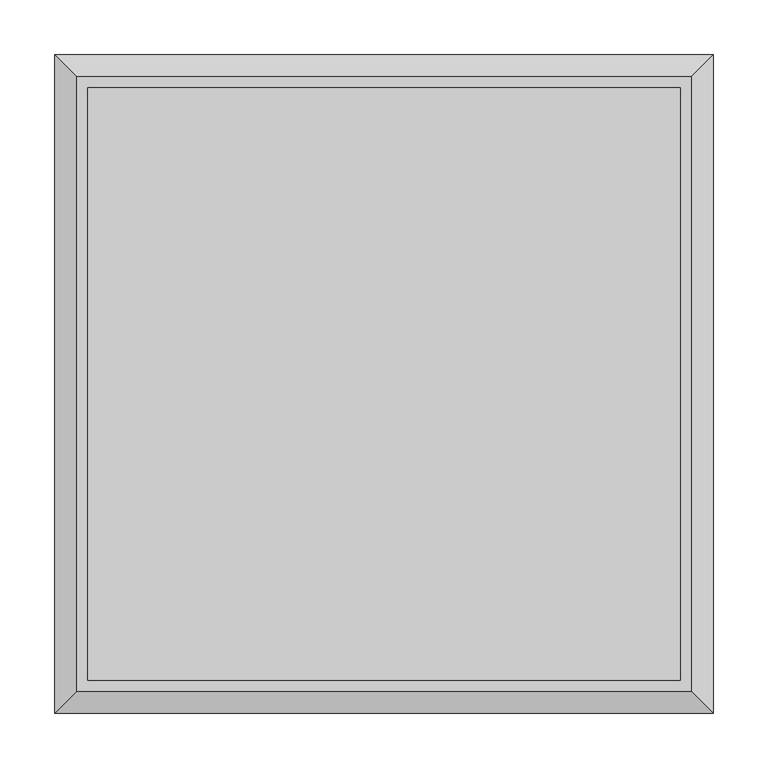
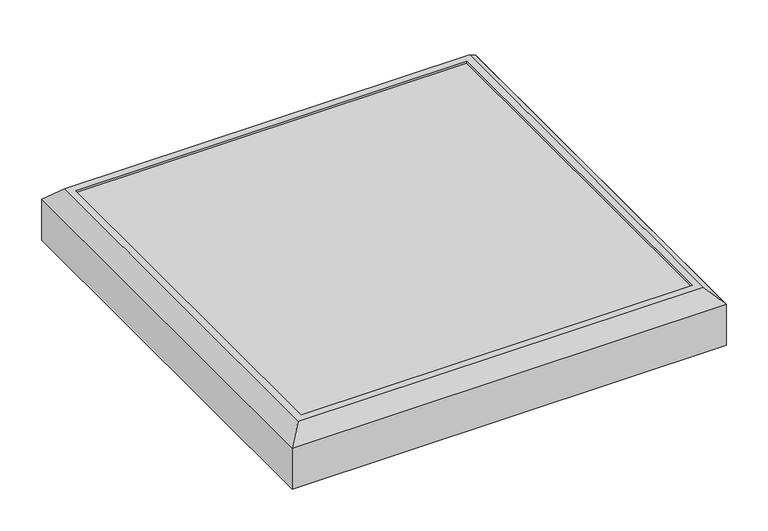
"""IFC4 building model written with IfcOpenShell, lengths in millimetres: light fixture geometry, OPL S (открыто) : OPL S."""

from ifc_helpers import new_model, si_unit, origin, origin_with_axes, place, context, project, spatial, polyline, outline, extrude, faceted_brep, source, transform, mapped, element, save


def light_fixture_91a3bebd(model_context):
    return source(origin(), model_context, "Body", "SolidModel", [
        faceted_brep([(-280.0, 280.0, 80.0), (-280.0, -280.0, 80.0), (280.0, -280.0, 80.0), (280.0, 280.0, 80.0), (270.0, 270.0, 80.0), (270.0, -270.0, 80.0), (-270.0, -270.0, 80.0), (-270.0, 270.0, 80.0), (-300.0, 300.0, 60.0), (300.0, 300.0, 60.0), (300.0, -300.0, 60.0), (-300.0, -300.0, 60.0), (270.0, 270.0, 77.0), (-270.0, 270.0, 77.0), (-270.0, -270.0, 77.0), (270.0, -270.0, 77.0)], [[[0, 1, 2, 3], [4, 5, 6, 7]], [[8, 9, 10, 11]], [[1, 0, 8, 11]], [[2, 1, 11, 10]], [[3, 2, 10, 9]], [[0, 3, 9, 8]], [[12, 13, 14, 15]], [[12, 15, 5, 4]], [[15, 14, 6, 5]], [[14, 13, 7, 6]], [[13, 12, 4, 7]]]),
        extrude(outline(polyline([(-300.0, 300.0), (300.0, 300.0), (300.0, -300.0), (-300.0, -300.0), (-300.0, 300.0)])), origin_with_axes(), (0.0, 0.0, 1.0), 60.0),
    ])


if __name__ == "__main__":
    model = new_model("IFC4")
    model_context = context("Model", 3, world=origin())
    ifc_project = project(units=[si_unit("LENGTHUNIT", "METRE", prefix="MILLI")], contexts=[model_context])
    site = spatial("IfcSite", under=ifc_project)
    building = spatial("IfcBuilding", under=site)
    placement = place(None, origin())
    light_fixture_shape = light_fixture_91a3bebd(model_context)
    element("IfcLightFixture", 1, ObjectType="OPL S (открыто) : OPL S", at=placement, inside=building, context=model_context, shape_type="MappedRepresentation", body=[
        mapped(light_fixture_shape, transform((0.0, 0.0, 0.0), x_axis=(1.0, 0.0, 0.0), y_axis=(0.0, 1.0, 0.0), z_axis=(0.0, 0.0, 1.0))),
    ])
    save(model, "model.ifc")
